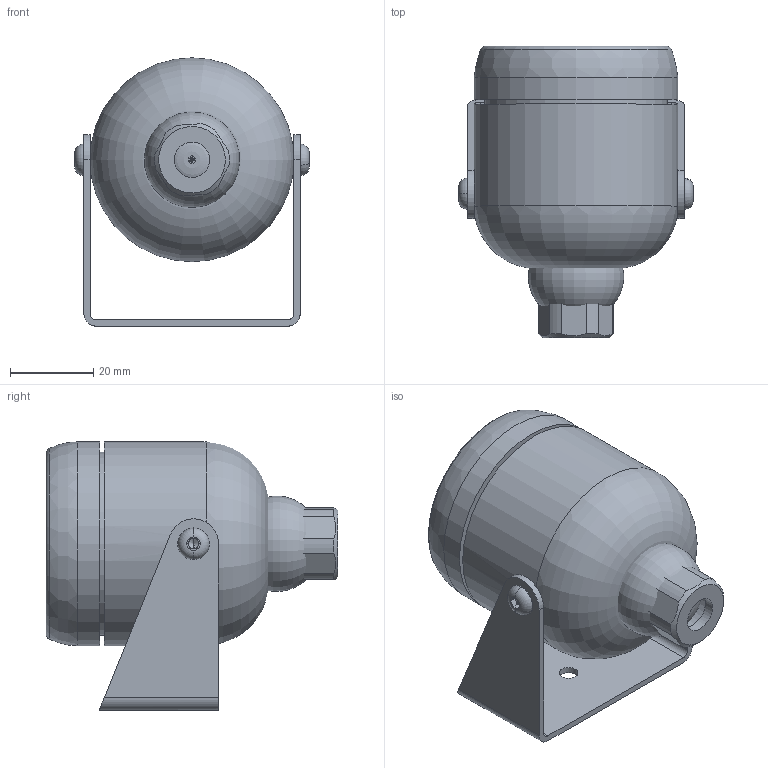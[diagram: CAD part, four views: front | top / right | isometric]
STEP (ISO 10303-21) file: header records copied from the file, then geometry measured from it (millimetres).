
FILE_DESCRIPTION(/* description */ ('Alibre Inc.'),/* implementation_level */ '2;1');
FILE_NAME(/* name */ 'export-B94E9DB6-B1EE-4AC8-AECB-5216840EB5E9',/* time_stamp */ '2025-04-08T18:38:48+02:00',/* author */ (''),/* organization */ (''),/* preprocessor_version */ 'ST-DEVELOPER v17',/* originating_system */ 'Alibre',/* authorisation */ '');
FILE_SCHEMA (('CONFIG_CONTROL_DESIGN'));
Length unit declared in the file: millimetre
Bounding box: 56.4 x 70.14 x 64.5 mm (x, y, z)
Volume: 66637.3 mm3; surface area: 38330.5 mm2
Topology: 11 solids, 11 shells, 177 faces, 369 edges, 227 vertices
Faces by surface type: plane 76, cylinder 64, cone 25, torus 12
Full cylindrical faces by diameter (mm): 2.013 x4, 3.3 x2, 4 x3, 4.25 x2, 4.5 x1, 4.8 x1, 8.5 x1, 8.7 x1, 10.75 x1, 10.9 x1, 12 x3, 13 x1, 14 x1, 16.4 x1, 17.4 x1, 31 x2, 32 x1, 34 x1, 35 x1, 35.1 x1, 36 x1, 40 x1, 40.6 x1, 43 x2, 44 x1, 49 x2
Entity records: 4804 total; most frequent: CARTESIAN_POINT 676, DIRECTION 601, ORIENTED_EDGE 478, AXIS2_PLACEMENT_3D 296, FACE_BOUND 253, EDGE_LOOP 250, EDGE_CURVE 239, VERTEX_POINT 188
